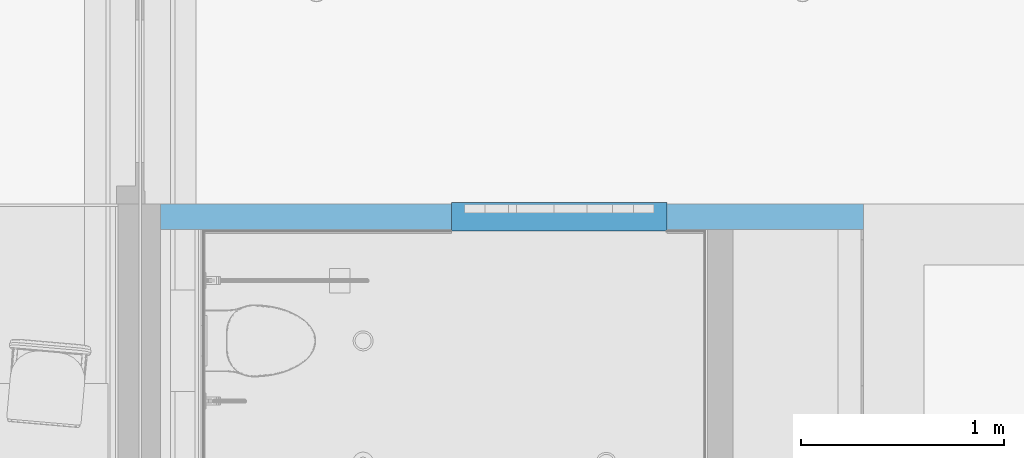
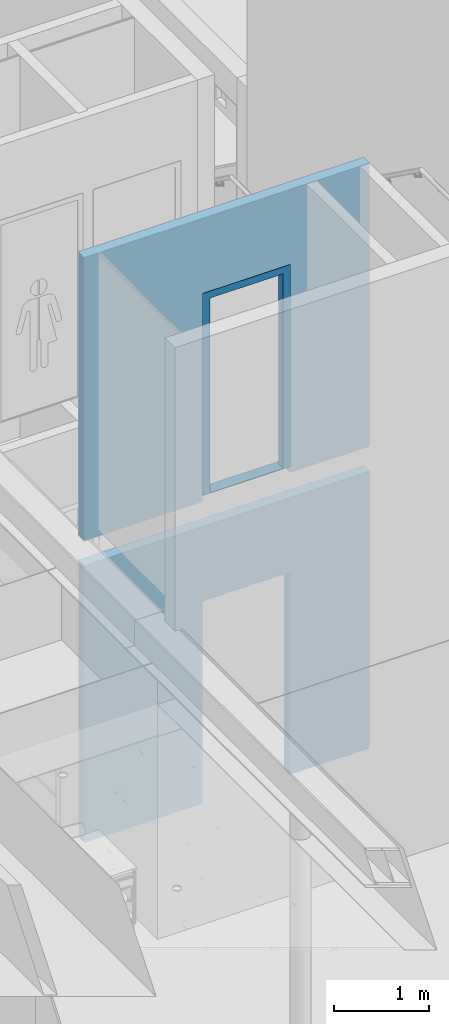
# One storey, part 53 of 347: 1 building element part, 2 openings, 1 element without a shape of its own, plus 1 element that does not belong to this part.
"""IFC2X3 building model written with IfcOpenShell, lengths in millimetres."""

from ifc_helpers import new_model, entity, si_unit, converted_unit, derived_unit, money_unit, direction, frame, origin_with_axes, place, context, subcontext, project, spatial, faceted_brep, source, transform, mapped, material, type_object, element, fill, aggregate, save


model = new_model("IFC2X3")

# Units and contexts
model_context = context("Model", 3, precision=0.01, world=origin_with_axes(), true_north=direction((0.0, 1.0)))
plan_context = context("Plan", 3, precision=0.01, world=origin_with_axes(), true_north=direction((0.0, 1.0)))
body_context = subcontext(model_context, "Body", "Model", "MODEL_VIEW")
ifc_project = project(units=[si_unit("LENGTHUNIT", "METRE", prefix="MILLI"), si_unit("AREAUNIT", "SQUARE_METRE"), si_unit("VOLUMEUNIT", "CUBIC_METRE"), converted_unit("PLANEANGLEUNIT", "DEGREE", entity("IfcPlaneAngleMeasure", 0.0174532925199), si_unit("PLANEANGLEUNIT", "RADIAN"), dimensions=[0, 0, 0, 0, 0, 0, 0]), money_unit("EUR"), converted_unit("TIMEUNIT", "Year", entity("IfcTimeMeasure", 31556926.0), si_unit("TIMEUNIT", "SECOND"), dimensions=[0, 0, 1, 0, 0, 0, 0]), si_unit("MASSUNIT", "GRAM", prefix="KILO"), si_unit("THERMODYNAMICTEMPERATUREUNIT", "DEGREE_CELSIUS"), si_unit("LUMINOUSINTENSITYUNIT", "LUMEN"), si_unit("ENERGYUNIT", "JOULE", prefix="MEGA"), derived_unit("THERMALCONDUCTANCEUNIT", [(si_unit("POWERUNIT", "WATT"), 1), (si_unit("LENGTHUNIT", "METRE"), -1), (si_unit("THERMODYNAMICTEMPERATUREUNIT", "KELVIN"), -1)]), derived_unit("SPECIFICHEATCAPACITYUNIT", [(si_unit("ENERGYUNIT", "JOULE"), 1), (si_unit("MASSUNIT", "GRAM", prefix="KILO"), -1), (si_unit("THERMODYNAMICTEMPERATUREUNIT", "KELVIN"), -1)]), derived_unit("MASSDENSITYUNIT", [(si_unit("MASSUNIT", "GRAM", prefix="KILO"), 1), (si_unit("VOLUMEUNIT", "CUBIC_METRE"), -1)])], contexts=[model_context, plan_context])

# Site, building, storey
site_placement = place(None, origin_with_axes())
site = spatial("IfcSite", under=ifc_project, at=site_placement, Name="Site", CompositionType="ELEMENT")
building_placement = place(site_placement, origin_with_axes())
building = spatial("IfcBuilding", under=site, at=building_placement, Name="Naam gebouw", CompositionType="ELEMENT")
storey_placement = place(building_placement, origin_with_axes())
storey = spatial("IfcBuildingStorey", under=building, at=storey_placement, Name="begane grond", CompositionType="ELEMENT", Elevation=0.0)

# Wall, openings, door, building element part
ifc_material = material(Name="ALG - LICHTE SCHEIDINGSWAND")
wall_type = type_object("IfcWallType", Name="ALG LSW 125 125", PredefinedType="NOTDEFINED")
wall_placement = place(storey_placement, frame((35705.0, 27975.0, 0.0), z_axis=(0.0, 0.0, 1.0), x_axis=(1.0, 0.0, 0.0)))
wall = element("IfcWall", 1, at=wall_placement, inside=storey, type_object=wall_type, material=ifc_material, Name="22_GF 125 ECO DGS/2.75.2A", context=body_context, shape_type="Brep", body=[
    faceted_brep([(1436.00001783, 0.0, 2600.0), (1436.00001783, 0.0, 0.0), (0.0, 0.0, 0.0), (0.0, 0.0, 3560.0), (3470.0, 0.0, 3560.0), (3470.0, 0.0, 0.0), (2500.00001783, 0.0, 0.0), (2500.00001783, 0.0, 2600.0), (1436.00001783, -125.0, 2600.0), (1436.00001783, -125.0, 0.0), (0.0, -125.0, 0.0), (0.0, -125.0, 3560.0), (3470.0, -125.0, 3560.0), (3470.0, -125.0, 0.0), (2500.00001783, -125.0, 0.0), (2500.00001783, -125.0, 2600.0)], [[[0, 1, 2, 3, 4, 5, 6, 7]], [[1, 0, 8, 9]], [[1, 9, 10, 2]], [[11, 3, 2, 10]], [[12, 4, 3, 11]], [[4, 12, 13, 5]], [[14, 6, 5, 13]], [[7, 6, 14, 15]], [[0, 7, 15, 8]], [[15, 14, 13, 12, 11, 10, 9, 8]]]),
    faceted_brep([(1436.00001783, 0.0, 6560.0), (1436.00001783, 0.0, 3960.0), (1436.00001783, 0.0, 3880.0), (0.0, 0.0, 3880.0), (0.0, 0.0, 7520.0), (3470.0, 0.0, 7520.0), (3470.0, 0.0, 3880.0), (2500.00001783, 0.0, 3880.0), (2500.00001783, 0.0, 3960.0), (2500.00001783, 0.0, 6560.0), (1436.00001783, -125.0, 6560.0), (1436.00001783, -125.0, 3960.0), (1436.00001783, -125.0, 3880.0), (0.0, -125.0, 3880.0), (0.0, -125.0, 7520.0), (3470.0, -125.0, 7520.0), (3470.0, -125.0, 3880.0), (2500.00001783, -125.0, 3880.0), (2500.00001783, -125.0, 3960.0), (2500.00001783, -125.0, 6560.0)], [[[0, 1, 2, 3, 4, 5, 6, 7, 8, 9]], [[1, 0, 10, 11]], [[1, 11, 12, 2]], [[2, 12, 13, 3]], [[3, 13, 14, 4]], [[5, 4, 14, 15]], [[16, 6, 5, 15]], [[17, 7, 6, 16]], [[18, 8, 7, 17]], [[9, 8, 18, 19]], [[0, 9, 19, 10]], [[19, 18, 17, 16, 15, 14, 13, 12, 11, 10]]]),
])
opening_1_placement = place(wall_placement, frame((1968.00001783, 0.0, 0.0), z_axis=(0.0, 0.0, 1.0), x_axis=(1.0, 0.0, 0.0)))
element("IfcOpeningElement", 2, at=opening_1_placement, cuts=wall, Name="32_01.06", context=body_context, shape_type="Brep", body=[
    faceted_brep([(-532.0, 257.0, 2600.0), (-532.0, 257.0, 0.0), (-532.0, -125.0, 0.0), (-532.0, -125.0, 2600.0), (532.0, 257.0, 2600.0), (532.0, 257.0, 0.0), (532.0, -125.0, 0.0), (532.0, -125.0, 2600.0)], [[[0, 1, 2, 3]], [[0, 4, 5, 1]], [[1, 5, 6, 2]], [[3, 2, 6, 7]], [[4, 0, 3, 7]], [[5, 4, 7, 6]]]),
])
opening_2_placement = place(wall_placement, frame((1968.00001783, 0.0, 3960.0), z_axis=(0.0, 0.0, 1.0), x_axis=(1.0, 0.0, 0.0)))
opening_2 = element("IfcOpeningElement", 3, at=opening_2_placement, cuts=wall, Name="32_01.06", context=body_context, shape_type="Brep", body=[
    faceted_brep([(-532.0, 257.0, 2600.0), (-532.0, 257.0, 0.0), (-532.0, -125.0, 0.0), (-532.0, -125.0, 2600.0), (532.0, 257.0, 2600.0), (532.0, 257.0, 0.0), (532.0, -125.0, 0.0), (532.0, -125.0, 2600.0)], [[[0, 1, 2, 3]], [[0, 4, 5, 1]], [[1, 5, 6, 2]], [[3, 2, 6, 7]], [[4, 0, 3, 7]], [[5, 4, 7, 6]]]),
])
door_style = type_object("IfcDoorStyle", Name="D1 25", ConstructionType="NOTDEFINED", OperationType="SINGLE_SWING_LEFT", ParameterTakesPrecedence=False, Sizeable=False)
door_placement = place(opening_2_placement, frame((-532.0, 0.0, 0.0), z_axis=(0.0, 0.0, 1.0), x_axis=(1.0, 0.0, 0.0)))
door = element("IfcDoor", 4, at=door_placement, inside=storey, type_object=door_style, Name="32_01.06", ObjectType="DOOR", OverallHeight=2600.0, OverallWidth=1064.0)
fill(opening_2, door)
shared_shape = source(origin_with_axes(), body_context, "Body", "Brep", [
    faceted_brep([(467.0, -40.0, 10.0), (467.0, 0.0, 10.0), (-467.0, 0.0, 10.0), (-467.0, -40.0, 10.0), (-442.0, -40.0, 10.0), (-442.0, -139.0, 10.0), (442.0, -139.0, 10.0), (442.0, -40.0, 10.0), (467.0, -40.0, 0.0), (467.0, 0.0, 0.0), (-467.0, 0.0, 0.0), (-467.0, -40.0, 0.0), (-442.0, -40.0, 0.0), (-442.0, -139.0, 0.0), (442.0, -139.0, 0.0), (442.0, -40.0, 0.0)], [[[0, 1, 2, 3, 4, 5, 6, 7]], [[8, 9, 1, 0]], [[9, 10, 2, 1]], [[11, 3, 2, 10]], [[3, 11, 12, 4]], [[5, 4, 12, 13]], [[6, 5, 13, 14]], [[14, 15, 7, 6]], [[7, 15, 8, 0]], [[15, 14, 13, 12, 11, 10, 9, 8]]]),
    faceted_brep([(442.0, -50.0, 0.0), (442.0, -139.0, 0.0), (442.0, -139.0, 2510.0), (442.0, -50.0, 2510.0), (467.0, -50.0, 0.0), (467.0, 0.0, 0.0), (532.0, 0.0, 0.0), (532.0, -139.0, 0.0), (532.0, -139.0, 2510.0), (467.0, -50.0, 2510.0), (532.0, 0.0, 2510.0), (467.0, 0.0, 2510.0)], [[[0, 1, 2, 3]], [[4, 5, 6, 7, 1, 0]], [[1, 7, 8, 2]], [[9, 3, 2, 8, 10, 11]], [[9, 4, 0, 3]], [[11, 5, 4, 9]], [[11, 10, 6, 5]], [[6, 10, 8, 7]]]),
    faceted_brep([(-467.0, -50.0, 2510.0), (-467.0, 0.0, 2510.0), (-532.0, 0.0, 2510.0), (-532.0, -139.0, 2510.0), (-442.0, -139.0, 2510.0), (-442.0, -50.0, 2510.0), (-467.0, -50.0, 0.0), (-467.0, 0.0, 0.0), (-532.0, 0.0, 0.0), (-532.0, -139.0, 0.0), (-442.0, -139.0, 0.0), (-442.0, -50.0, 0.0)], [[[0, 1, 2, 3, 4, 5]], [[0, 6, 7, 1]], [[7, 8, 2, 1]], [[2, 8, 9, 3]], [[3, 9, 10, 4]], [[5, 4, 10, 11]], [[5, 11, 6, 0]], [[6, 11, 10, 9, 8, 7]]]),
    faceted_brep([(467.0, 0.0, 2535.0), (-467.0, 0.0, 2535.0), (-467.0, 0.0, 2510.0), (-532.0, 0.0, 2510.0), (-532.0, 0.0, 2600.0), (532.0, 0.0, 2600.0), (532.0, 0.0, 2510.0), (467.0, 0.0, 2510.0), (467.0, -50.0, 2535.0), (-467.0, -50.0, 2535.0), (-467.0, -50.0, 2510.0), (-442.0, -50.0, 2510.0), (-442.0, -139.0, 2510.0), (-532.0, -139.0, 2510.0), (-532.0, -139.0, 2600.0), (532.0, -139.0, 2600.0), (532.0, -139.0, 2510.0), (467.0, -50.0, 2510.0), (442.0, -139.0, 2510.0), (442.0, -50.0, 2510.0)], [[[0, 1, 2, 3, 4, 5, 6, 7]], [[0, 8, 9, 1]], [[1, 9, 10, 2]], [[10, 11, 12, 13, 3, 2]], [[4, 3, 13, 14]], [[5, 4, 14, 15]], [[6, 5, 15, 16]], [[17, 7, 6, 16, 18, 19]], [[7, 17, 8, 0]], [[10, 9, 8, 17, 19, 11]], [[19, 18, 12, 11]], [[12, 18, 16, 15, 14, 13]]]),
])
building_element_part_placement = place(door_placement, origin_with_axes())
building_element_part = element("IfcBuildingElementPart", 5, at=building_element_part_placement, context=body_context, shape_type="MappedRepresentation", body=[
    mapped(shared_shape, transform((532.0, 7.0, 0.0))),
])
aggregate(door, [building_element_part])

save(model, "model.ifc")
